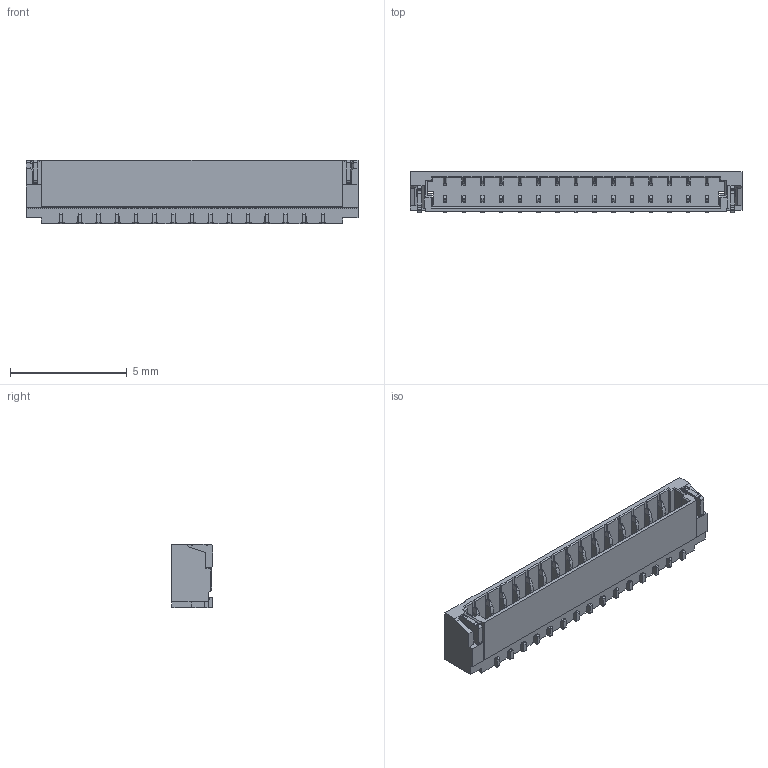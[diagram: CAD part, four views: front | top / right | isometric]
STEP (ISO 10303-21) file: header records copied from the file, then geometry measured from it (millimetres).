
FILE_DESCRIPTION((''),'2;1');
FILE_NAME('SCT0800WRS-15','2023-04-10T16:06:57',('Administrator'),(''),'CREO PARAMETRIC BY PTC INC, 2018050','CREO PARAMETRIC BY PTC INC, 2018050','');
FILE_SCHEMA(('CONFIG_CONTROL_DESIGN'));
Length unit declared in the file: millimetre
Products named in the file (1): SCT0800WRS-15
Bounding box: 14.2 x 1.78 x 2.7 mm (x, y, z)
Volume: 35.9 mm3; surface area: 266.7 mm2
Topology: 1 solids, 1 shells, 1139 faces, 3649 edges, 2344 vertices
Faces by surface type: plane 743, cylinder 396
Entity records: 40784 total; most frequent: CARTESIAN_POINT 8157, ORIENTED_EDGE 7298, DIRECTION 6383, EDGE_CURVE 3649, VECTOR 2821, LINE 2821, VERTEX_POINT 2344, AXIS2_PLACEMENT_3D 1781
